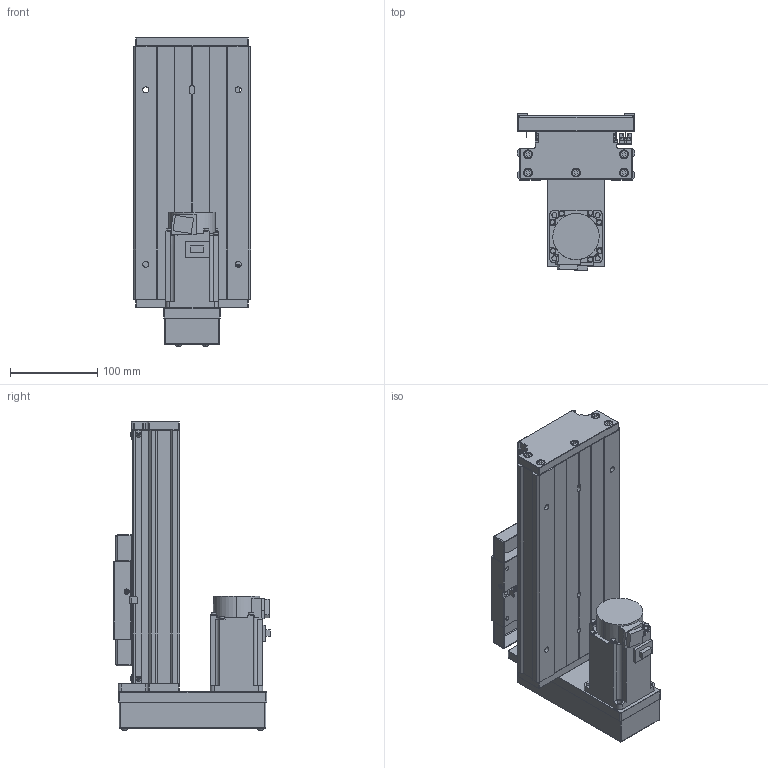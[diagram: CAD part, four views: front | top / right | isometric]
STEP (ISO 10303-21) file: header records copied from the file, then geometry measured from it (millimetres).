
FILE_DESCRIPTION (( 'STEP AP203' ), '1' );
FILE_NAME ('CTH130-100-BM-M40-C4.step', '2023-06-30T02:42:38', ( '微软用户' ), ( '微软中国' ), 'SwSTEP 2.0', 'SolidWorks 2020', '' );
FILE_SCHEMA (( 'CONFIG_CONTROL_DESIGN' ));
Length unit declared in the file: millimetre
Products named in the file (20): GTH14-001_100; CTHA60-017; す晦芛蹟隊 M3℅5; CTH130-002_GTH14-002; EE_SX911P_R; HG-KN43J-S100; GB T308.1-2013-6.35; CTHA60-016; GBT 70.2-M4¡Á35_M4¡Á35; GTH14-004; GBT 70.1-M3℅5; GTH14-015-2_CTHA86-015-2; GTH14-005; GBT77-2000 M3×3; GTH14-033; GB1155-6X6; CTH130-031; CTH130-100-BM-M40-C4; GBT70.1 M5℅16; GBT 70.2-M3¡Á5_M3¡Á6
Assembly tree (60 placements, depth 2):
  CTH130-100-BM-M40-C4
    GTH14-001_100
    CTH130-002_GTH14-002
    GB T308.1-2013-6.35  x2
    GTH14-004
    GTH14-005
    GB1155-6X6  x2
    GBT70.1 M5℅16  x10
    CTHA60-017  x3
    EE_SX911P_R  x3
    CTHA60-016  x2
    GBT 70.1-M3℅5  x6
    GBT77-2000 M3×3  x6
    CTH130-031
    GBT 70.2-M3¡Á5_M3¡Á6  x8
    す晦芛蹟隊 M3℅5  x6
    HG-KN43J-S100
    GBT 70.2-M4¡Á35_M4¡Á35  x4
    GTH14-015-2_CTHA86-015-2
    GTH14-033
Bounding box: 135 x 179.8 x 354.2 mm (x, y, z)
Volume: 2230828 mm3; surface area: 461361.6 mm2
Topology: 63 solids, 63 shells, 2405 faces, 5725 edges, 3537 vertices
Faces by surface type: plane 1304, cylinder 622, cone 299, torus 124, sphere 36, bspline 20
Entity records: 43000 total; most frequent: CARTESIAN_POINT 9697, DIRECTION 6222, ORIENTED_EDGE 6156, EDGE_CURVE 3078, AXIS2_PLACEMENT_3D 2106, VECTOR 2010, LINE 2010, VERTEX_POINT 1947
